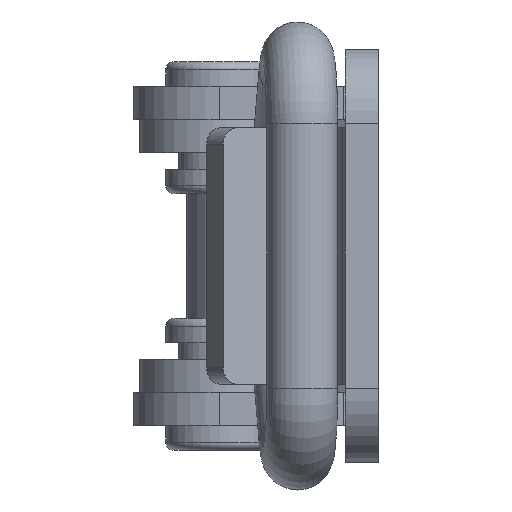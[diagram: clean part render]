
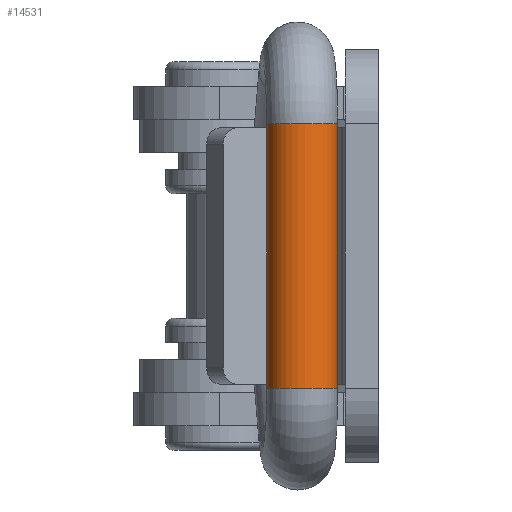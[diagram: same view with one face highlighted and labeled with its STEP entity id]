
A CAD part, left-side view. The second image highlights one B-rep face of the part: STEP entity #14531.
In plain terms, the highlighted cylindrical face has radius 2.15 mm (diameter 4.3 mm), a full revolution.
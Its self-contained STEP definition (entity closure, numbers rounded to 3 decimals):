
#1161 = ORIENTED_EDGE ( 'NONE', *, *, #19394, .T. ) ;
#2164 = DIRECTION ( 'NONE',  ( 0., 0., -1. ) ) ;
#2216 = EDGE_CURVE ( 'NONE', #7511, #7511, #15354, .T. ) ;
#2601 = CIRCLE ( 'NONE', #14360, 2.15 ) ;
#3480 = EDGE_LOOP ( 'NONE', ( #3636 ) ) ;
#3636 = ORIENTED_EDGE ( 'NONE', *, *, #2216, .F. ) ;
#3852 = FACE_OUTER_BOUND ( 'NONE', #3480, .T. ) ;
#4783 = CARTESIAN_POINT ( 'NONE',  ( -20., 0., 8. ) ) ;
#5214 = CYLINDRICAL_SURFACE ( 'NONE', #11989, 2.15 ) ;
#5319 = CARTESIAN_POINT ( 'NONE',  ( -20., 0., 8. ) ) ;
#5687 = EDGE_LOOP ( 'NONE', ( #1161 ) ) ;
#6895 = FACE_OUTER_BOUND ( 'NONE', #5687, .T. ) ;
#7007 = DIRECTION ( 'NONE',  ( -1., 0., 0. ) ) ;
#7511 = VERTEX_POINT ( 'NONE', #20328 ) ;
#11161 = DIRECTION ( 'NONE',  ( 1., 0., 0. ) ) ;
#11384 = DIRECTION ( 'NONE',  ( 0., 0., 1. ) ) ;
#11628 = AXIS2_PLACEMENT_3D ( 'NONE', #4783, #11384, #11161 ) ;
#11989 = AXIS2_PLACEMENT_3D ( 'NONE', #5319, #2164, #7007 ) ;
#14360 = AXIS2_PLACEMENT_3D ( 'NONE', #16794, #18365, #15126 ) ;
#14531 = ADVANCED_FACE ( 'NONE', ( #6895, #3852 ), #5214, .T. ) ;
#15126 = DIRECTION ( 'NONE',  ( 1., 0., 0. ) ) ;
#15354 = CIRCLE ( 'NONE', #11628, 2.15 ) ;
#16794 = CARTESIAN_POINT ( 'NONE',  ( -20., 0., -8. ) ) ;
#17154 = CARTESIAN_POINT ( 'NONE',  ( -17.85, 0., -8. ) ) ;
#18365 = DIRECTION ( 'NONE',  ( 0., 0., 1. ) ) ;
#19394 = EDGE_CURVE ( 'NONE', #20518, #20518, #2601, .T. ) ;
#20328 = CARTESIAN_POINT ( 'NONE',  ( -17.85, 0., 8. ) ) ;
#20518 = VERTEX_POINT ( 'NONE', #17154 ) ;
